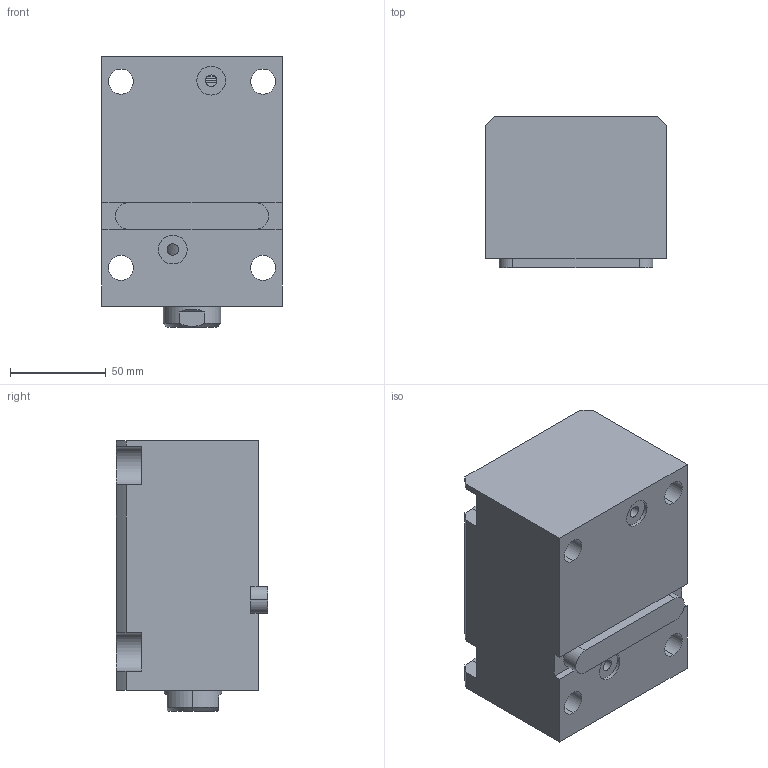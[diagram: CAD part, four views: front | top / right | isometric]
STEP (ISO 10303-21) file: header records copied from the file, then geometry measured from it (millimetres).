
FILE_DESCRIPTION (( 'STEP AP203' ), '1' );
FILE_NAME ('CHTB-LAM50-70N.STEP', '2018-05-23T11:02:36', ( '' ), ( '' ), 'SwSTEP 2.0', 'SolidWorks 2015', '' );
FILE_SCHEMA (( 'CONFIG_CONTROL_DESIGN' ));
Length unit declared in the file: millimetre
Products named in the file (4): 掛极LAM50-70N; CHTM-SDMA50QG; CHTB-LAM50-70N; 活塞杆LAM50-70N
Assembly tree (3 placements, depth 2):
  CHTB-LAM50-70N
    掛极LAM50-70N
    活塞杆LAM50-70N
    CHTM-SDMA50QG
Bounding box: 94 x 79 x 141 mm (x, y, z)
Volume: 761228.3 mm3; surface area: 123860.4 mm2
Topology: 3 solids, 3 shells, 192 faces, 524 edges, 347 vertices
Faces by surface type: cylinder 96, plane 51, torus 16, cone 15, bspline 14
Entity records: 11011 total; most frequent: CARTESIAN_POINT 5956, ORIENTED_EDGE 1036, DIRECTION 908, EDGE_CURVE 518, AXIS2_PLACEMENT_3D 356, VERTEX_POINT 347, EDGE_LOOP 221, VECTOR 196
